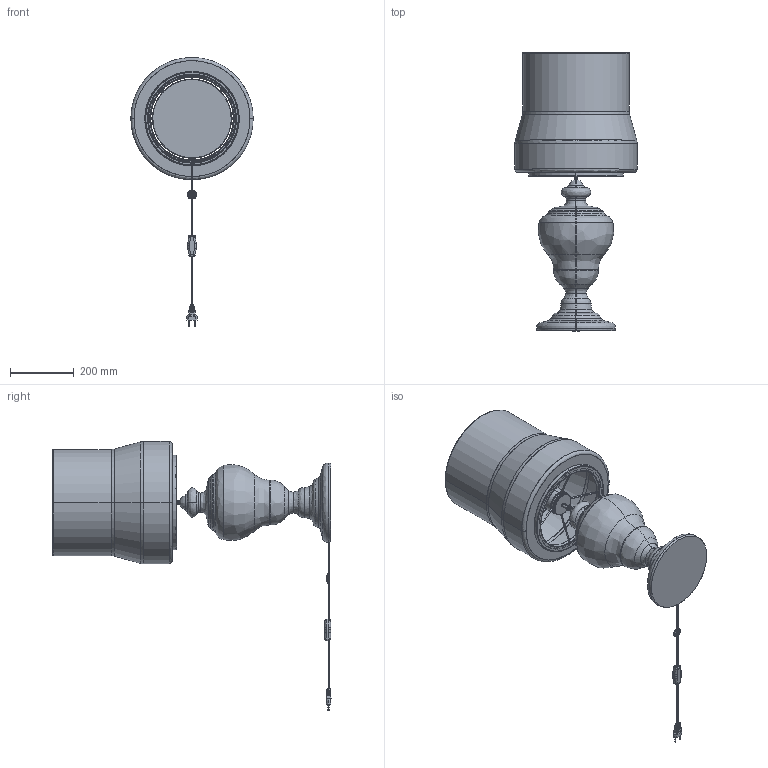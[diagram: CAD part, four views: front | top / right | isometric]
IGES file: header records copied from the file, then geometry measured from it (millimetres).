
Start section: SolidWorks IGES file using analytic representation for surfaces
Global section: file name: C:\Moooi\01_Lighting\Kaipo Too\21_Creations\Kaipo TOO_3D.igs; native system: SolidWorks 2019; preprocessor: SolidWorks 2019; author: nielskeller; date: 190731.153431; units: millimetre
Bounding box: 385 x 875.53 x 846.94 mm (x, y, z)
Surface area: 1626664.6 mm2 (no closed solid volume)
Topology: 0 solids, 0 shells, 1404 faces, 17663 edges, 17628 vertices
Faces by surface type: bspline 864, revolution 540
